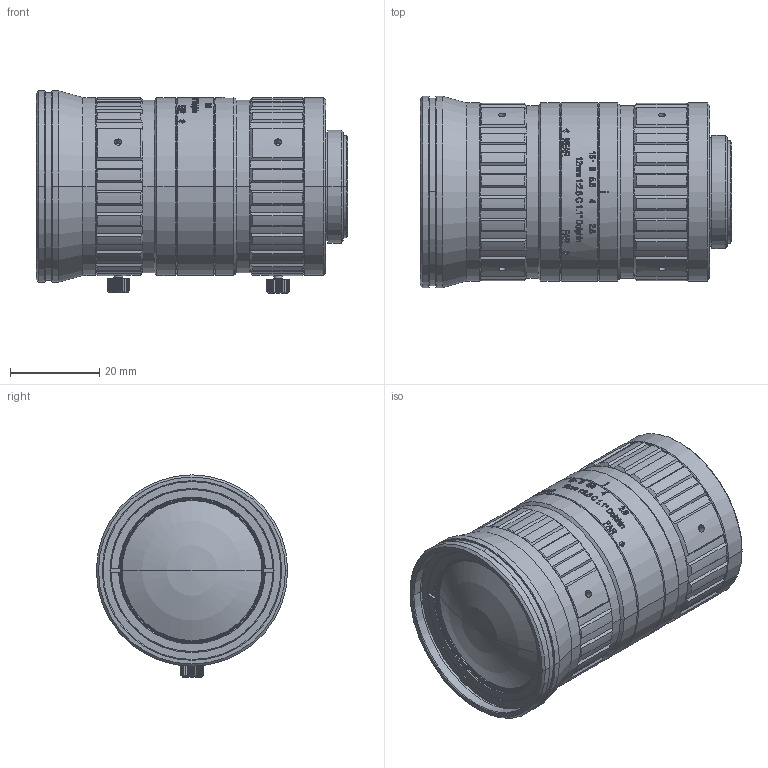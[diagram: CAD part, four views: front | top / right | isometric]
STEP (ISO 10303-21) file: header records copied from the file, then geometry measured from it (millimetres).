
FILE_DESCRIPTION((''),'2;1');
FILE_NAME('OPT-CDP1228-V1_0','2021-09-18T08:24:23',('dcsongs'),(''),'CREO PARAMETRIC BY PTC INC, 2020354','CREO PARAMETRIC BY PTC INC, 2020354','');
FILE_SCHEMA(('AUTOMOTIVE_DESIGN { 1 0 10303 214 1 1 1 1 }'));
Length unit declared in the file: millimetre
Products named in the file (1): OPT-CDP1228-V1_0
Bounding box: 69.94 x 43 x 45.46 mm (x, y, z)
Volume: 80797.9 mm3; surface area: 17159.9 mm2
Topology: 1 solids, 7 shells, 1837 faces, 5136 edges, 3414 vertices
Faces by surface type: plane 615, cylinder 591, bspline 406, cone 173, extrusion 37, torus 9, sphere 6
Entity records: 78517 total; most frequent: CARTESIAN_POINT 31262, ORIENTED_EDGE 10252, DIRECTION 7843, EDGE_CURVE 5126, VERTEX_POINT 3412, AXIS2_PLACEMENT_3D 2838, VECTOR 2167, LINE 2130
